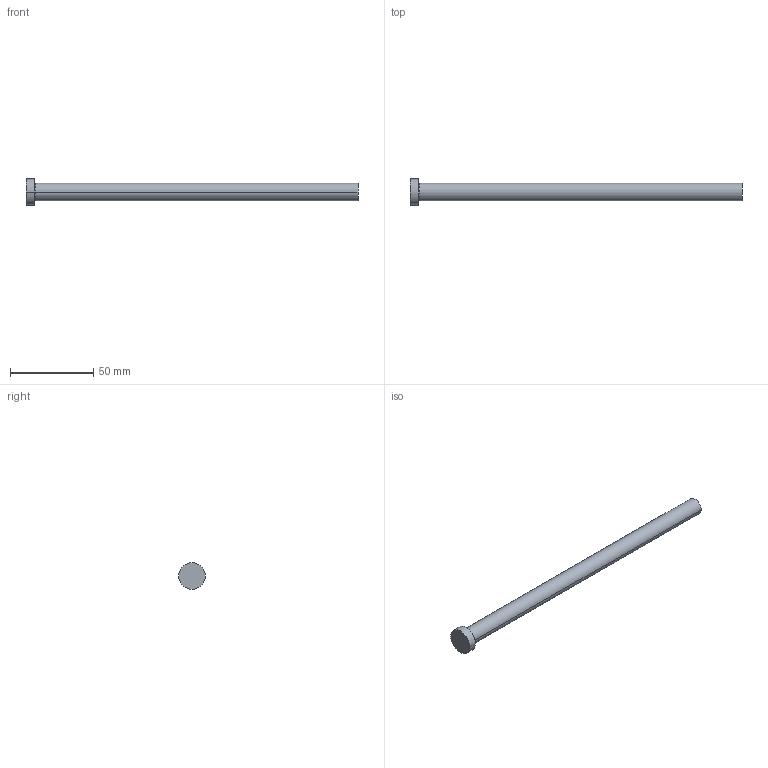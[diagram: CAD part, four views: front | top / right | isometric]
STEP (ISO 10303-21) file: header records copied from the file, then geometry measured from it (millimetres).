
FILE_DESCRIPTION (( 'STEP AP214' ), '1' );
FILE_NAME ('A-10,5x200.STEP', '2020-05-29T16:00:35', ( 'August' ), ( '' ), 'SwSTEP 2.0', 'SolidWorks 2018', '' );
FILE_SCHEMA (( 'AUTOMOTIVE_DESIGN' ));
Length unit declared in the file: millimetre
Products named in the file (1): A-10,5x200
Bounding box: 200 x 16 x 16 mm (x, y, z)
Volume: 17892.2 mm3; surface area: 7078.9 mm2
Topology: 1 solids, 1 shells, 9 faces, 16 edges, 10 vertices
Faces by surface type: cylinder 4, plane 3, torus 2
Entity records: 260 total; most frequent: DIRECTION 48, CARTESIAN_POINT 36, ORIENTED_EDGE 32, AXIS2_PLACEMENT_3D 22, EDGE_CURVE 16, CIRCLE 12, EDGE_LOOP 10, VERTEX_POINT 10
